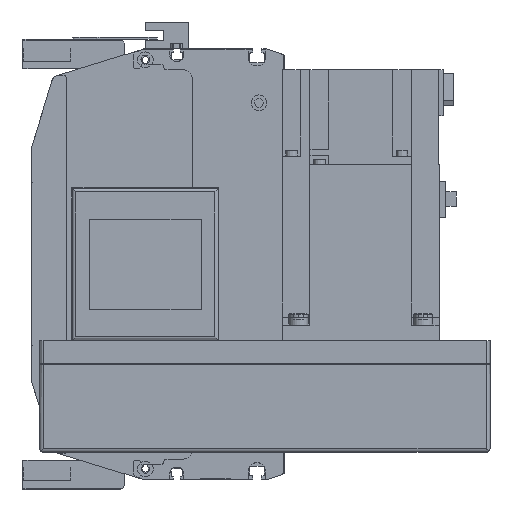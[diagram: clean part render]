
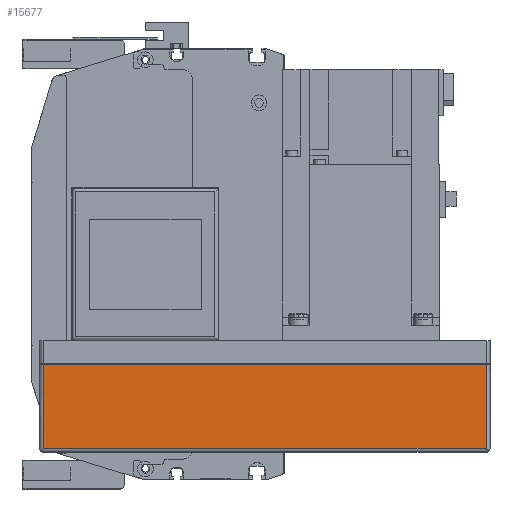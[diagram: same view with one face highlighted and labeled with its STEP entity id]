
A CAD part, left-side view. The second image highlights one B-rep face of the part: STEP entity #15677.
In plain terms, the highlighted planar face has unit normal (-1, 0, 0) as drawn and (0, 1, 0) by its records, which use the part's own axes.
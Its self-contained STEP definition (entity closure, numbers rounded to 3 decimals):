
#2652=ORIENTED_EDGE('',*,*,#6370,.F.);
#2653=ORIENTED_EDGE('',*,*,#6310,.T.);
#2654=ORIENTED_EDGE('',*,*,#6371,.F.);
#2655=ORIENTED_EDGE('',*,*,#6305,.F.);
#6305=EDGE_CURVE('',#8310,#8311,#9932,.T.);
#6310=EDGE_CURVE('',#8316,#8315,#9934,.T.);
#6370=EDGE_CURVE('',#8316,#8310,#9977,.T.);
#6371=EDGE_CURVE('',#8311,#8315,#9978,.T.);
#8310=VERTEX_POINT('',#24437);
#8311=VERTEX_POINT('',#24439);
#8315=VERTEX_POINT('',#24448);
#8316=VERTEX_POINT('',#24450);
#9932=LINE('',#24438,#11293);
#9934=LINE('',#24449,#11295);
#9977=LINE('',#24572,#11338);
#9978=LINE('',#24573,#11339);
#11293=VECTOR('',#19490,1000.);
#11295=VECTOR('',#19500,1000.);
#11338=VECTOR('',#19621,1000.);
#11339=VECTOR('',#19622,1000.);
#12508=EDGE_LOOP('',(#2652,#2653,#2654,#2655));
#13845=FACE_BOUND('',#12508,.T.);
#15020=PLANE('',#16837);
#15677=ADVANCED_FACE('',(#13845),#15020,.T.);
#16837=AXIS2_PLACEMENT_3D('',#24571,#19619,#19620);
#19490=DIRECTION('',(0.,0.,1.));
#19500=DIRECTION('',(0.,0.,1.));
#19619=DIRECTION('',(0.,1.,0.));
#19620=DIRECTION('',(0.,0.,1.));
#19621=DIRECTION('',(1.,0.,0.));
#19622=DIRECTION('',(-1.,0.,0.));
#24437=CARTESIAN_POINT('',(-2.,54.,-55.));
#24438=CARTESIAN_POINT('',(-2.,54.,-57.));
#24439=CARTESIAN_POINT('',(-2.,54.,-12.));
#24448=CARTESIAN_POINT('',(-228.,54.,-12.));
#24449=CARTESIAN_POINT('',(-228.,54.,-57.));
#24450=CARTESIAN_POINT('',(-228.,54.,-55.));
#24571=CARTESIAN_POINT('',(-2.,54.,-57.));
#24572=CARTESIAN_POINT('',(-230.,54.,-55.));
#24573=CARTESIAN_POINT('',(-2.,54.,-12.));
